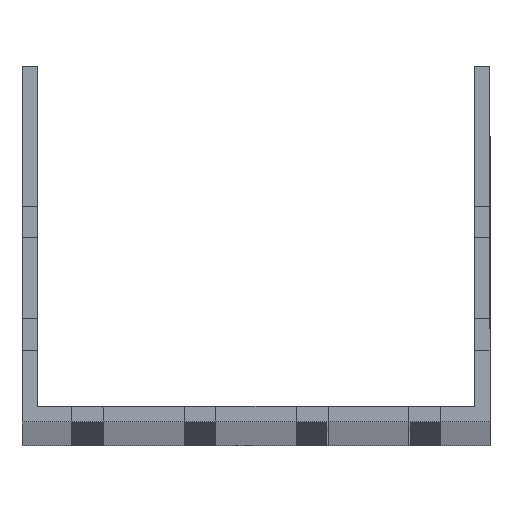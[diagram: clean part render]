
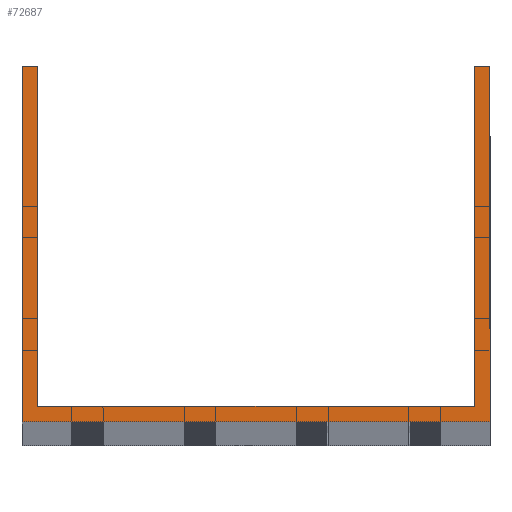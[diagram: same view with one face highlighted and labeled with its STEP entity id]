
A CAD part, top view. The second image highlights one B-rep face of the part: STEP entity #72687.
In plain terms, the highlighted planar face has unit normal (0, 0, 1).
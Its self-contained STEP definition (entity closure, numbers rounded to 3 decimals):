
#124 = VECTOR ( 'NONE', #41068, 1000. ) ;
#815 = AXIS2_PLACEMENT_3D ( 'NONE', #70193, #64634, #70590 ) ;
#2455 = CARTESIAN_POINT ( 'NONE',  ( -52., 79., 1500. ) ) ;
#4327 = VERTEX_POINT ( 'NONE', #17872 ) ;
#5153 = VERTEX_POINT ( 'NONE', #12501 ) ;
#5543 = VECTOR ( 'NONE', #11010, 1000. ) ;
#7894 = CARTESIAN_POINT ( 'NONE',  ( 48.5, 3.5, 1500. ) ) ;
#7909 = CARTESIAN_POINT ( 'NONE',  ( -48.5, 3.5, 1500. ) ) ;
#8092 = EDGE_CURVE ( 'NONE', #18944, #40124, #32641, .T. ) ;
#8337 = VERTEX_POINT ( 'NONE', #7909 ) ;
#10676 = DIRECTION ( 'NONE',  ( 1., 0., 0. ) ) ;
#11010 = DIRECTION ( 'NONE',  ( 0., -1., 0. ) ) ;
#12501 = CARTESIAN_POINT ( 'NONE',  ( 48.5, 79., 1500. ) ) ;
#12749 = CARTESIAN_POINT ( 'NONE',  ( -52., 79., 1500. ) ) ;
#13446 = ORIENTED_EDGE ( 'NONE', *, *, #34483, .T. ) ;
#15244 = EDGE_CURVE ( 'NONE', #4327, #8337, #78125, .T. ) ;
#15938 = VECTOR ( 'NONE', #30618, 1000. ) ;
#16459 = LINE ( 'NONE', #58942, #124 ) ;
#17872 = CARTESIAN_POINT ( 'NONE',  ( -48.5, 79., 1500. ) ) ;
#18888 = EDGE_CURVE ( 'NONE', #4327, #18944, #22006, .T. ) ;
#18944 = VERTEX_POINT ( 'NONE', #33938 ) ;
#22006 = LINE ( 'NONE', #52587, #75442 ) ;
#22653 = EDGE_LOOP ( 'NONE', ( #73650, #52312, #77006, #70125, #61193, #13446, #66489, #51966 ) ) ;
#24460 = EDGE_CURVE ( 'NONE', #58798, #31038, #52274, .T. ) ;
#26744 = CARTESIAN_POINT ( 'NONE',  ( 52., 0., 1500. ) ) ;
#27320 = EDGE_CURVE ( 'NONE', #40124, #58798, #16459, .T. ) ;
#28832 = CARTESIAN_POINT ( 'NONE',  ( 52., 79., 1500. ) ) ;
#28886 = CARTESIAN_POINT ( 'NONE',  ( -48.5, 79., 1500. ) ) ;
#29732 = CARTESIAN_POINT ( 'NONE',  ( -52., 3.5, 1500. ) ) ;
#30618 = DIRECTION ( 'NONE',  ( -1., 0., 0. ) ) ;
#31038 = VERTEX_POINT ( 'NONE', #61183 ) ;
#32641 = LINE ( 'NONE', #2455, #53154 ) ;
#33648 = EDGE_CURVE ( 'NONE', #8337, #39338, #65101, .T. ) ;
#33938 = CARTESIAN_POINT ( 'NONE',  ( -52., 79., 1500. ) ) ;
#34483 = EDGE_CURVE ( 'NONE', #31038, #5153, #50052, .T. ) ;
#39001 = CARTESIAN_POINT ( 'NONE',  ( -52., 0., 1500. ) ) ;
#39003 = DIRECTION ( 'NONE',  ( 0., -1., 0. ) ) ;
#39338 = VERTEX_POINT ( 'NONE', #7894 ) ;
#40124 = VERTEX_POINT ( 'NONE', #39001 ) ;
#41068 = DIRECTION ( 'NONE',  ( 1., 0., 0. ) ) ;
#41818 = EDGE_CURVE ( 'NONE', #39338, #5153, #50838, .T. ) ;
#43031 = CARTESIAN_POINT ( 'NONE',  ( 48.5, 79., 1500. ) ) ;
#45967 = FACE_OUTER_BOUND ( 'NONE', #22653, .T. ) ;
#50052 = LINE ( 'NONE', #12749, #15938 ) ;
#50838 = LINE ( 'NONE', #43031, #57384 ) ;
#51966 = ORIENTED_EDGE ( 'NONE', *, *, #33648, .F. ) ;
#52274 = LINE ( 'NONE', #28832, #63395 ) ;
#52312 = ORIENTED_EDGE ( 'NONE', *, *, #18888, .T. ) ;
#52587 = CARTESIAN_POINT ( 'NONE',  ( -52., 79., 1500. ) ) ;
#53154 = VECTOR ( 'NONE', #39003, 1000. ) ;
#57384 = VECTOR ( 'NONE', #73224, 1000. ) ;
#58293 = PLANE ( 'NONE',  #815 ) ;
#58798 = VERTEX_POINT ( 'NONE', #26744 ) ;
#58942 = CARTESIAN_POINT ( 'NONE',  ( -52., 0., 1500. ) ) ;
#59694 = VECTOR ( 'NONE', #10676, 1000. ) ;
#61183 = CARTESIAN_POINT ( 'NONE',  ( 52., 79., 1500. ) ) ;
#61193 = ORIENTED_EDGE ( 'NONE', *, *, #24460, .T. ) ;
#63395 = VECTOR ( 'NONE', #76495, 1000. ) ;
#64634 = DIRECTION ( 'NONE',  ( 0., 0., 1. ) ) ;
#65101 = LINE ( 'NONE', #29732, #59694 ) ;
#66489 = ORIENTED_EDGE ( 'NONE', *, *, #41818, .F. ) ;
#70086 = DIRECTION ( 'NONE',  ( -1., 0., 0. ) ) ;
#70125 = ORIENTED_EDGE ( 'NONE', *, *, #27320, .T. ) ;
#70193 = CARTESIAN_POINT ( 'NONE',  ( 0., 0., 1500. ) ) ;
#70590 = DIRECTION ( 'NONE',  ( 1., 0., 0. ) ) ;
#72687 = ADVANCED_FACE ( 'NONE', ( #45967 ), #58293, .T. ) ;
#73224 = DIRECTION ( 'NONE',  ( 0., 1., 0. ) ) ;
#73650 = ORIENTED_EDGE ( 'NONE', *, *, #15244, .F. ) ;
#75442 = VECTOR ( 'NONE', #70086, 1000. ) ;
#76495 = DIRECTION ( 'NONE',  ( 0., 1., 0. ) ) ;
#77006 = ORIENTED_EDGE ( 'NONE', *, *, #8092, .T. ) ;
#78125 = LINE ( 'NONE', #28886, #5543 ) ;
